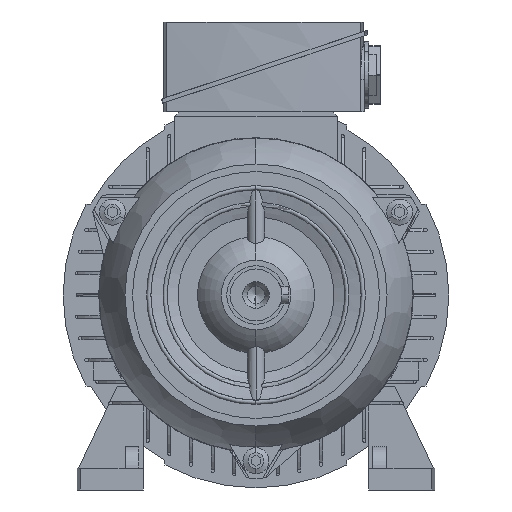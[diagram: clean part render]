
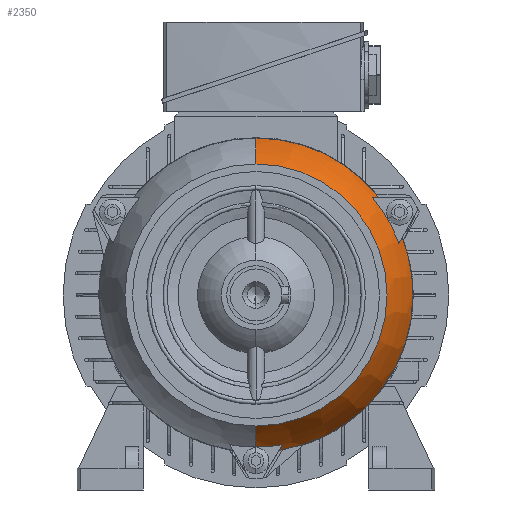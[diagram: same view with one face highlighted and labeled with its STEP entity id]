
A CAD part, left-side view. The second image highlights one B-rep face of the part: STEP entity #2350.
In plain terms, the highlighted toroidal (fillet/blend) face has major radius 18.86 mm and minor radius 95 mm.
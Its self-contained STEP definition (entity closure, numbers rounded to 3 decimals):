
#2350=ADVANCED_FACE('',(#4760),#4761,.T.);
#4760=FACE_OUTER_BOUND('',#7186,.T.);
#4761=TOROIDAL_SURFACE('',#7187,-18.86,95.);
#7186=EDGE_LOOP('',(#14638,#14639,#14640,#14641,#14642,#14643,#14644,#14645,#14646,#14647,#14648));
#7187=AXIS2_PLACEMENT_3D('',#14649,#14650,#14651);
#14638=ORIENTED_EDGE('',*,*,#14874,.T.);
#14639=ORIENTED_EDGE('',*,*,#17785,.T.);
#14640=ORIENTED_EDGE('',*,*,#17772,.T.);
#14641=ORIENTED_EDGE('',*,*,#17787,.F.);
#14642=ORIENTED_EDGE('',*,*,#14872,.F.);
#14643=ORIENTED_EDGE('',*,*,#17788,.T.);
#14644=ORIENTED_EDGE('',*,*,#17789,.T.);
#14645=ORIENTED_EDGE('',*,*,#17790,.T.);
#14646=ORIENTED_EDGE('',*,*,#17791,.F.);
#14647=ORIENTED_EDGE('',*,*,#14877,.T.);
#14648=ORIENTED_EDGE('',*,*,#17792,.T.);
#14649=CARTESIAN_POINT('',(23.221,0.0,0.0));
#14650=DIRECTION('',(1.0,0.0,0.0));
#14651=DIRECTION('',(0.0,0.0,-1.0));
#14872=EDGE_CURVE('',#17901,#17897,#17903,.T.);
#14874=EDGE_CURVE('',#17905,#17906,#17907,.T.);
#14877=EDGE_CURVE('',#17912,#17910,#17913,.T.);
#17772=EDGE_CURVE('',#22221,#22219,#22222,.T.);
#17785=EDGE_CURVE('',#17906,#22221,#22239,.T.);
#17787=EDGE_CURVE('',#17897,#22219,#22241,.T.);
#17788=EDGE_CURVE('',#17901,#22242,#22243,.T.);
#17789=EDGE_CURVE('',#22242,#22244,#22245,.T.);
#17790=EDGE_CURVE('',#22244,#22246,#22247,.T.);
#17791=EDGE_CURVE('',#17912,#22246,#22248,.T.);
#17792=EDGE_CURVE('',#17910,#17905,#22249,.T.);
#17897=VERTEX_POINT('',#22489);
#17901=VERTEX_POINT('',#22494);
#17903=CIRCLE('',#22497,72.45);
#17905=VERTEX_POINT('',#22499);
#17906=VERTEX_POINT('',#22500);
#17907=CIRCLE('',#22501,95.);
#17910=VERTEX_POINT('',#22504);
#17912=VERTEX_POINT('',#22506);
#17913=CIRCLE('',#22507,95.);
#22219=VERTEX_POINT('',#30301);
#22221=VERTEX_POINT('',#30304);
#22222=B_SPLINE_CURVE_WITH_KNOTS('',3,(#30305,#30306,#30307,#30308,#30309,#30310),.UNSPECIFIED.,.F.,.F.,(4,2,4),(62.192,67.067,71.941),.UNSPECIFIED.);
#22239=CIRCLE('',#30336,70.142);
#22241=CIRCLE('',#30338,72.45);
#22242=VERTEX_POINT('',#30339);
#22243=B_SPLINE_CURVE_WITH_KNOTS('',3,(#30340,#30341,#30342,#30343,#30344,#30345),.UNSPECIFIED.,.F.,.F.,(4,2,4),(311.449,316.323,321.198),.UNSPECIFIED.);
#22244=VERTEX_POINT('',#30346);
#22245=CIRCLE('',#30347,70.142);
#22246=VERTEX_POINT('',#30348);
#22247=B_SPLINE_CURVE_WITH_KNOTS('',3,(#30349,#30350,#30351,#30352,#30353,#30354),.UNSPECIFIED.,.F.,.F.,(4,2,4),(62.192,67.067,71.941),.UNSPECIFIED.);
#22248=CIRCLE('',#30355,72.45);
#22249=CIRCLE('',#30356,60.5);
#22489=CARTESIAN_POINT('',(-3.0,-72.45,0.));
#22494=CARTESIAN_POINT('',(-3.0,-67.413,26.543));
#22497=AXIS2_PLACEMENT_3D('',#30479,#30480,#30481);
#22499=CARTESIAN_POINT('',(-29.,0.,-60.5));
#22500=CARTESIAN_POINT('',(-10.0,0.,-70.142));
#22501=AXIS2_PLACEMENT_3D('',#30482,#30483,#30484);
#22504=CARTESIAN_POINT('',(-29.,0.,60.5));
#22506=CARTESIAN_POINT('',(-3.0,0.,72.45));
#22507=AXIS2_PLACEMENT_3D('',#30491,#30492,#30493);
#30301=CARTESIAN_POINT('',(-3.0,-10.719,-71.653));
#30304=CARTESIAN_POINT('',(-10.0,-12.278,-69.059));
#30305=CARTESIAN_POINT('',(-11.342,-12.629,-68.475));
#30306=CARTESIAN_POINT('',(-9.798,-12.214,-69.165));
#30307=CARTESIAN_POINT('',(-8.191,-11.82,-69.821));
#30308=CARTESIAN_POINT('',(-4.925,-11.092,-71.032));
#30309=CARTESIAN_POINT('',(-3.266,-10.759,-71.586));
#30310=CARTESIAN_POINT('',(-1.622,-10.463,-72.079));
#30336=AXIS2_PLACEMENT_3D('',#33668,#33669,#33670);
#30338=AXIS2_PLACEMENT_3D('',#33671,#33672,#33673);
#30339=CARTESIAN_POINT('',(-10.0,-65.946,23.897));
#30340=CARTESIAN_POINT('',(-1.622,-67.654,26.978));
#30341=CARTESIAN_POINT('',(-3.266,-67.375,26.475));
#30342=CARTESIAN_POINT('',(-4.925,-67.062,25.91));
#30343=CARTESIAN_POINT('',(-8.191,-66.377,24.674));
#30344=CARTESIAN_POINT('',(-9.798,-66.006,24.004));
#30345=CARTESIAN_POINT('',(-11.342,-65.615,23.301));
#30346=CARTESIAN_POINT('',(-10.0,-53.668,45.162));
#30347=AXIS2_PLACEMENT_3D('',#33674,#33675,#33676);
#30348=CARTESIAN_POINT('',(-3.0,-56.693,45.11));
#30349=CARTESIAN_POINT('',(-11.342,-52.987,45.174));
#30350=CARTESIAN_POINT('',(-9.798,-53.791,45.16));
#30351=CARTESIAN_POINT('',(-8.191,-54.557,45.147));
#30352=CARTESIAN_POINT('',(-4.925,-55.969,45.122));
#30353=CARTESIAN_POINT('',(-3.266,-56.616,45.111));
#30354=CARTESIAN_POINT('',(-1.622,-57.191,45.101));
#30355=AXIS2_PLACEMENT_3D('',#33677,#33678,#33679);
#30356=AXIS2_PLACEMENT_3D('',#33680,#33681,#33682);
#30479=CARTESIAN_POINT('',(-3.0,0.0,0.0));
#30480=DIRECTION('',(1.0,0.0,0.0));
#30481=DIRECTION('',(0.0,1.0,0.0));
#30482=CARTESIAN_POINT('',(23.221,0.,18.86));
#30483=DIRECTION('',(0.0,-1.0,0.));
#30484=DIRECTION('',(0.0,0.,-1.0));
#30491=CARTESIAN_POINT('',(23.221,0.,-18.86));
#30492=DIRECTION('',(0.0,-1.0,0.));
#30493=DIRECTION('',(0.0,0.,1.0));
#33668=CARTESIAN_POINT('',(-10.0,0.0,0.0));
#33669=DIRECTION('',(-1.0,0.0,0.0));
#33670=DIRECTION('',(0.0,-0.0,1.0));
#33671=CARTESIAN_POINT('',(-3.0,0.0,0.0));
#33672=DIRECTION('',(1.0,0.0,0.0));
#33673=DIRECTION('',(0.0,1.0,0.0));
#33674=CARTESIAN_POINT('',(-10.0,0.0,0.0));
#33675=DIRECTION('',(-1.0,-0.0,0.0));
#33676=DIRECTION('',(0.0,0.0,1.0));
#33677=CARTESIAN_POINT('',(-3.0,0.0,0.0));
#33678=DIRECTION('',(1.0,0.0,0.0));
#33679=DIRECTION('',(0.0,1.0,0.0));
#33680=CARTESIAN_POINT('',(-29.,0.0,0.0));
#33681=DIRECTION('',(1.0,0.0,0.0));
#33682=DIRECTION('',(0.0,1.0,0.0));
